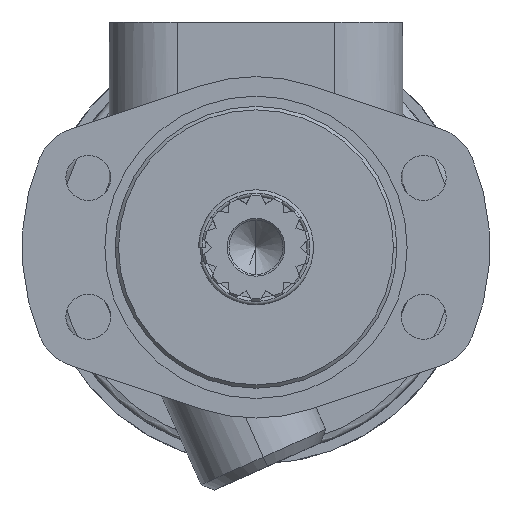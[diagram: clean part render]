
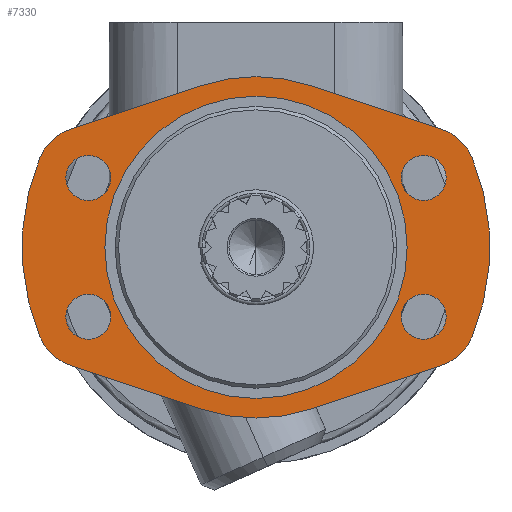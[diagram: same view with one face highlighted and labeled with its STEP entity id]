
A CAD part, left-side view. The second image highlights one B-rep face of the part: STEP entity #7330.
In plain terms, the highlighted planar face has unit normal (-1, 0, 0).
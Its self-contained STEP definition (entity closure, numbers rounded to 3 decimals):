
#887=CARTESIAN_POINT('',(0.,0.,0.));
#888=DIRECTION('',(1.,0.,0.));
#889=DIRECTION('',(0.,-0.315,-0.949));
#890=AXIS2_PLACEMENT_3D('',#887,#888,#889);
#892=DIRECTION('',(0.,0.949,0.315));
#893=VECTOR('',#892,40.463);
#894=CARTESIAN_POINT('',(0.,15.749,-47.455));
#895=LINE('',#894,#893);
#896=CARTESIAN_POINT('',(0.,49.428,-20.474));
#897=DIRECTION('',(1.,0.,0.));
#898=DIRECTION('',(0.,0.315,-0.949));
#899=AXIS2_PLACEMENT_3D('',#896,#897,#898);
#901=CARTESIAN_POINT('',(0.,0.,0.));
#902=DIRECTION('',(1.,0.,0.));
#903=DIRECTION('',(0.,0.924,-0.383));
#904=AXIS2_PLACEMENT_3D('',#901,#902,#903);
#906=CARTESIAN_POINT('',(0.,49.428,20.474));
#907=DIRECTION('',(1.,0.,0.));
#908=DIRECTION('',(0.,0.924,0.383));
#909=AXIS2_PLACEMENT_3D('',#906,#907,#908);
#911=DIRECTION('',(0.,-0.949,0.315));
#912=VECTOR('',#911,40.463);
#913=CARTESIAN_POINT('',(0.,54.152,34.71));
#914=LINE('',#913,#912);
#915=CARTESIAN_POINT('',(0.,0.,0.));
#916=DIRECTION('',(1.,0.,0.));
#917=DIRECTION('',(0.,0.315,0.949));
#918=AXIS2_PLACEMENT_3D('',#915,#916,#917);
#920=DIRECTION('',(0.,-0.949,-0.315));
#921=VECTOR('',#920,40.463);
#922=CARTESIAN_POINT('',(0.,-15.749,47.455));
#923=LINE('',#922,#921);
#924=CARTESIAN_POINT('',(0.,-49.428,20.474));
#925=DIRECTION('',(1.,0.,0.));
#926=DIRECTION('',(0.,-0.315,0.949));
#927=AXIS2_PLACEMENT_3D('',#924,#925,#926);
#929=CARTESIAN_POINT('',(0.,0.,0.));
#930=DIRECTION('',(1.,0.,0.));
#931=DIRECTION('',(0.,-0.924,0.383));
#932=AXIS2_PLACEMENT_3D('',#929,#930,#931);
#934=CARTESIAN_POINT('',(0.,-49.428,-20.474));
#935=DIRECTION('',(1.,0.,0.));
#936=DIRECTION('',(0.,-0.924,-0.383));
#937=AXIS2_PLACEMENT_3D('',#934,#935,#936);
#939=DIRECTION('',(0.,0.949,-0.315));
#940=VECTOR('',#939,40.463);
#941=CARTESIAN_POINT('',(0.,-54.152,-34.71));
#942=LINE('',#941,#940);
#943=CARTESIAN_POINT('',(0.,49.104,20.34));
#944=DIRECTION('',(-1.,0.,0.));
#945=DIRECTION('',(0.,0.,1.));
#946=AXIS2_PLACEMENT_3D('',#943,#944,#945);
#948=CARTESIAN_POINT('',(0.,49.104,20.34));
#949=DIRECTION('',(-1.,0.,0.));
#950=DIRECTION('',(0.,0.,-1.));
#951=AXIS2_PLACEMENT_3D('',#948,#949,#950);
#953=CARTESIAN_POINT('',(0.,49.104,-20.34));
#954=DIRECTION('',(-1.,0.,0.));
#955=DIRECTION('',(0.,0.,1.));
#956=AXIS2_PLACEMENT_3D('',#953,#954,#955);
#958=CARTESIAN_POINT('',(0.,49.104,-20.34));
#959=DIRECTION('',(-1.,0.,0.));
#960=DIRECTION('',(0.,0.,-1.));
#961=AXIS2_PLACEMENT_3D('',#958,#959,#960);
#963=CARTESIAN_POINT('',(0.,-49.104,-20.34));
#964=DIRECTION('',(-1.,0.,0.));
#965=DIRECTION('',(0.,0.,1.));
#966=AXIS2_PLACEMENT_3D('',#963,#964,#965);
#968=CARTESIAN_POINT('',(0.,-49.104,-20.34));
#969=DIRECTION('',(-1.,0.,0.));
#970=DIRECTION('',(0.,0.,-1.));
#971=AXIS2_PLACEMENT_3D('',#968,#969,#970);
#973=CARTESIAN_POINT('',(0.,-49.104,20.34));
#974=DIRECTION('',(-1.,0.,0.));
#975=DIRECTION('',(0.,0.,1.));
#976=AXIS2_PLACEMENT_3D('',#973,#974,#975);
#978=CARTESIAN_POINT('',(0.,-49.104,20.34));
#979=DIRECTION('',(-1.,0.,0.));
#980=DIRECTION('',(0.,0.,-1.));
#981=AXIS2_PLACEMENT_3D('',#978,#979,#980);
#983=CARTESIAN_POINT('',(0.,0.,0.));
#984=DIRECTION('',(-1.,0.,0.));
#985=DIRECTION('',(0.,0.,1.));
#986=AXIS2_PLACEMENT_3D('',#983,#984,#985);
#988=CARTESIAN_POINT('',(0.,0.,0.));
#989=DIRECTION('',(-1.,0.,0.));
#990=DIRECTION('',(0.,0.,-1.));
#991=AXIS2_PLACEMENT_3D('',#988,#989,#990);
#5691=CARTESIAN_POINT('',(0.,-15.749,-47.455));
#5692=CARTESIAN_POINT('',(0.,15.749,-47.455));
#5693=VERTEX_POINT('',#5691);
#5694=VERTEX_POINT('',#5692);
#5695=CARTESIAN_POINT('',(0.,54.152,-34.71));
#5696=VERTEX_POINT('',#5695);
#5697=CARTESIAN_POINT('',(0.,63.286,-26.214));
#5698=VERTEX_POINT('',#5697);
#5699=CARTESIAN_POINT('',(0.,63.286,26.214));
#5700=VERTEX_POINT('',#5699);
#5701=CARTESIAN_POINT('',(0.,54.152,34.71));
#5702=VERTEX_POINT('',#5701);
#5703=CARTESIAN_POINT('',(0.,15.749,47.455));
#5704=VERTEX_POINT('',#5703);
#5705=CARTESIAN_POINT('',(0.,-15.749,47.455));
#5706=VERTEX_POINT('',#5705);
#5707=CARTESIAN_POINT('',(0.,-54.152,34.71));
#5708=VERTEX_POINT('',#5707);
#5709=CARTESIAN_POINT('',(0.,-63.286,26.214));
#5710=VERTEX_POINT('',#5709);
#5711=CARTESIAN_POINT('',(0.,-63.286,-26.214));
#5712=VERTEX_POINT('',#5711);
#5713=CARTESIAN_POINT('',(0.,-54.152,-34.71));
#5714=VERTEX_POINT('',#5713);
#5747=CARTESIAN_POINT('',(0.,49.104,26.94));
#5749=VERTEX_POINT('',#5747);
#5751=CARTESIAN_POINT('',(0.,49.104,13.74));
#5753=VERTEX_POINT('',#5751);
#5755=CARTESIAN_POINT('',(0.,49.104,-13.74));
#5757=VERTEX_POINT('',#5755);
#5759=CARTESIAN_POINT('',(0.,49.104,-26.94));
#5761=VERTEX_POINT('',#5759);
#5763=CARTESIAN_POINT('',(0.,-49.104,-13.74));
#5765=VERTEX_POINT('',#5763);
#5767=CARTESIAN_POINT('',(0.,-49.104,-26.94));
#5769=VERTEX_POINT('',#5767);
#5771=CARTESIAN_POINT('',(0.,-49.104,26.94));
#5773=VERTEX_POINT('',#5771);
#5775=CARTESIAN_POINT('',(0.,-49.104,13.74));
#5777=VERTEX_POINT('',#5775);
#5879=CARTESIAN_POINT('',(0.,0.,44.275));
#5880=CARTESIAN_POINT('',(0.,0.,-44.275));
#5881=VERTEX_POINT('',#5879);
#5882=VERTEX_POINT('',#5880);
#7270=CARTESIAN_POINT('',(0.,0.,0.));
#7271=DIRECTION('',(1.,0.,0.));
#7272=DIRECTION('',(0.,-1.,0.));
#7273=AXIS2_PLACEMENT_3D('',#7270,#7271,#7272);
#7274=PLANE('',#7273);
#7275=ORIENTED_EDGE('',*,*,#7260,.T.);
#7277=ORIENTED_EDGE('',*,*,#7276,.T.);
#7279=ORIENTED_EDGE('',*,*,#7278,.T.);
#7281=ORIENTED_EDGE('',*,*,#7280,.T.);
#7283=ORIENTED_EDGE('',*,*,#7282,.T.);
#7285=ORIENTED_EDGE('',*,*,#7284,.T.);
#7287=ORIENTED_EDGE('',*,*,#7286,.T.);
#7289=ORIENTED_EDGE('',*,*,#7288,.T.);
#7291=ORIENTED_EDGE('',*,*,#7290,.T.);
#7293=ORIENTED_EDGE('',*,*,#7292,.T.);
#7295=ORIENTED_EDGE('',*,*,#7294,.T.);
#7297=ORIENTED_EDGE('',*,*,#7296,.T.);
#7298=EDGE_LOOP('',(#7275,#7277,#7279,#7281,#7283,#7285,#7287,#7289,#7291,#7293,
#7295,#7297));
#7299=FACE_OUTER_BOUND('',#7298,.F.);
#7301=ORIENTED_EDGE('',*,*,#7300,.T.);
#7303=ORIENTED_EDGE('',*,*,#7302,.T.);
#7304=EDGE_LOOP('',(#7301,#7303));
#7305=FACE_BOUND('',#7304,.F.);
#7307=ORIENTED_EDGE('',*,*,#7306,.T.);
#7309=ORIENTED_EDGE('',*,*,#7308,.T.);
#7310=EDGE_LOOP('',(#7307,#7309));
#7311=FACE_BOUND('',#7310,.F.);
#7313=ORIENTED_EDGE('',*,*,#7312,.T.);
#7315=ORIENTED_EDGE('',*,*,#7314,.T.);
#7316=EDGE_LOOP('',(#7313,#7315));
#7317=FACE_BOUND('',#7316,.F.);
#7319=ORIENTED_EDGE('',*,*,#7318,.T.);
#7321=ORIENTED_EDGE('',*,*,#7320,.T.);
#7322=EDGE_LOOP('',(#7319,#7321));
#7323=FACE_BOUND('',#7322,.F.);
#7325=ORIENTED_EDGE('',*,*,#7324,.T.);
#7327=ORIENTED_EDGE('',*,*,#7326,.T.);
#7328=EDGE_LOOP('',(#7325,#7327));
#7329=FACE_BOUND('',#7328,.F.);
#7330=ADVANCED_FACE('',(#7299,#7305,#7311,#7317,#7323,#7329),#7274,.F.);
#891=CIRCLE('',#890,50.);
#900=CIRCLE('',#899,15.);
#905=CIRCLE('',#904,68.5);
#910=CIRCLE('',#909,15.);
#919=CIRCLE('',#918,50.);
#928=CIRCLE('',#927,15.);
#933=CIRCLE('',#932,68.5);
#938=CIRCLE('',#937,15.);
#947=CIRCLE('',#946,6.6);
#952=CIRCLE('',#951,6.6);
#957=CIRCLE('',#956,6.6);
#962=CIRCLE('',#961,6.6);
#967=CIRCLE('',#966,6.6);
#972=CIRCLE('',#971,6.6);
#977=CIRCLE('',#976,6.6);
#982=CIRCLE('',#981,6.6);
#987=CIRCLE('',#986,44.275);
#992=CIRCLE('',#991,44.275);
#7260=EDGE_CURVE('',#5693,#5694,#891,.T.);
#7276=EDGE_CURVE('',#5694,#5696,#895,.T.);
#7278=EDGE_CURVE('',#5696,#5698,#900,.T.);
#7280=EDGE_CURVE('',#5698,#5700,#905,.T.);
#7282=EDGE_CURVE('',#5700,#5702,#910,.T.);
#7284=EDGE_CURVE('',#5702,#5704,#914,.T.);
#7286=EDGE_CURVE('',#5704,#5706,#919,.T.);
#7288=EDGE_CURVE('',#5706,#5708,#923,.T.);
#7290=EDGE_CURVE('',#5708,#5710,#928,.T.);
#7292=EDGE_CURVE('',#5710,#5712,#933,.T.);
#7294=EDGE_CURVE('',#5712,#5714,#938,.T.);
#7296=EDGE_CURVE('',#5714,#5693,#942,.T.);
#7300=EDGE_CURVE('',#5749,#5753,#947,.T.);
#7302=EDGE_CURVE('',#5753,#5749,#952,.T.);
#7306=EDGE_CURVE('',#5757,#5761,#957,.T.);
#7308=EDGE_CURVE('',#5761,#5757,#962,.T.);
#7312=EDGE_CURVE('',#5765,#5769,#967,.T.);
#7314=EDGE_CURVE('',#5769,#5765,#972,.T.);
#7318=EDGE_CURVE('',#5773,#5777,#977,.T.);
#7320=EDGE_CURVE('',#5777,#5773,#982,.T.);
#7324=EDGE_CURVE('',#5881,#5882,#987,.T.);
#7326=EDGE_CURVE('',#5882,#5881,#992,.T.);
